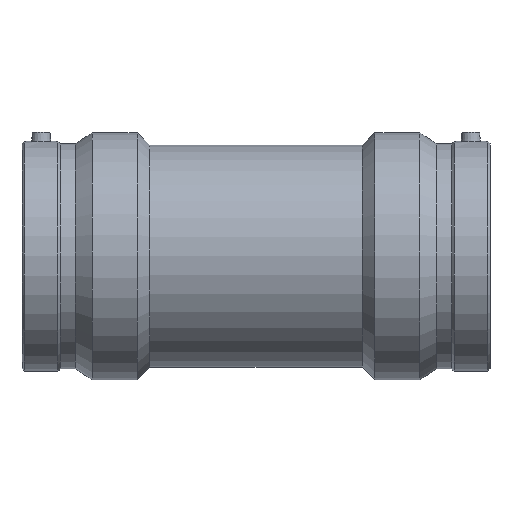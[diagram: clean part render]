
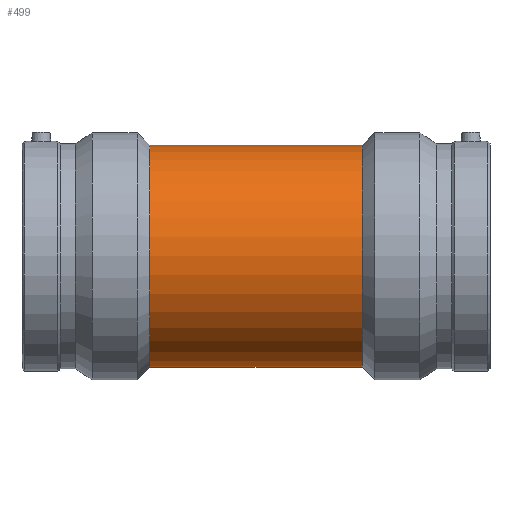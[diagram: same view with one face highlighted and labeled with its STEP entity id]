
A CAD part, top view. The second image highlights one B-rep face of the part: STEP entity #499.
In plain terms, the highlighted cylindrical face has radius 94.05 mm (diameter 188.1 mm), a full revolution.
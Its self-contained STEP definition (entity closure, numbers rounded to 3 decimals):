
#30=B_SPLINE_CURVE_WITH_KNOTS('',3,(#865,#866,#867,#868,#869,#870,#871,
#872,#873,#874,#875,#876,#877,#878,#879,#880,#881,#882,#883,#884,#885,#886,
#887,#888,#889,#890,#891,#892,#893,#894,#895,#896,#897,#898,#899,#900,#901,
#902,#903,#904,#905,#906,#907,#908,#909,#910,#911,#912,#913,#914,#915,#916,
#917,#918,#919,#920,#921,#922,#923,#924,#925,#926,#927,#928,#929,#930),
 .UNSPECIFIED.,.T.,.F.,(4,2,2,2,2,2,2,2,2,2,2,2,2,2,2,2,2,2,2,2,2,2,2,2,
2,2,2,2,2,2,2,2,4),(0.,1.303,2.607,3.91,
5.214,6.499,7.784,9.069,10.354,
11.64,12.925,14.21,15.495,16.799,
18.102,19.406,20.709,22.012,23.316,
24.619,25.923,27.208,28.493,29.778,
31.063,32.349,33.634,34.919,36.204,
37.508,38.811,40.114,41.418),
 .UNSPECIFIED.);
#69=FACE_BOUND('',#187,.T.);
#70=FACE_BOUND('',#188,.T.);
#117=FACE_OUTER_BOUND('',#186,.T.);
#186=EDGE_LOOP('',(#412));
#187=EDGE_LOOP('',(#413));
#188=EDGE_LOOP('',(#414));
#251=CIRCLE('',#568,94.05);
#252=CIRCLE('',#570,94.05);
#276=VERTEX_POINT('',#864);
#297=VERTEX_POINT('',#1058);
#298=VERTEX_POINT('',#1061);
#322=EDGE_CURVE('',#276,#276,#30,.T.);
#343=EDGE_CURVE('',#297,#297,#251,.T.);
#344=EDGE_CURVE('',#298,#298,#252,.T.);
#412=ORIENTED_EDGE('',*,*,#343,.T.);
#413=ORIENTED_EDGE('',*,*,#322,.T.);
#414=ORIENTED_EDGE('',*,*,#344,.F.);
#465=CYLINDRICAL_SURFACE('',#569,94.05);
#499=ADVANCED_FACE('',(#117,#69,#70),#465,.T.);
#568=AXIS2_PLACEMENT_3D('',#1059,#704,#705);
#569=AXIS2_PLACEMENT_3D('',#1060,#706,#707);
#570=AXIS2_PLACEMENT_3D('',#1062,#708,#709);
#704=DIRECTION('center_axis',(1.,0.,0.));
#705=DIRECTION('ref_axis',(0.,0.,-1.));
#706=DIRECTION('center_axis',(1.,0.,0.));
#707=DIRECTION('ref_axis',(0.,1.,0.));
#708=DIRECTION('center_axis',(1.,0.,0.));
#709=DIRECTION('ref_axis',(0.,0.,-1.));
#864=CARTESIAN_POINT('',(0.,-65.625,-67.37));
#865=CARTESIAN_POINT('Ctrl Pts',(0.,-65.625,-67.37));
#866=CARTESIAN_POINT('Ctrl Pts',(4.345,-65.625,-67.37));
#867=CARTESIAN_POINT('Ctrl Pts',(8.742,-65.188,-67.804));
#868=CARTESIAN_POINT('Ctrl Pts',(17.344,-63.444,-69.439));
#869=CARTESIAN_POINT('Ctrl Pts',(21.551,-62.137,-70.635));
#870=CARTESIAN_POINT('Ctrl Pts',(29.543,-58.759,-73.468));
#871=CARTESIAN_POINT('Ctrl Pts',(33.336,-56.686,-75.104));
#872=CARTESIAN_POINT('Ctrl Pts',(40.341,-51.934,-78.465));
#873=CARTESIAN_POINT('Ctrl Pts',(43.552,-49.255,-80.188));
#874=CARTESIAN_POINT('Ctrl Pts',(49.215,-43.592,-83.4));
#875=CARTESIAN_POINT('Ctrl Pts',(51.886,-40.403,-85.015));
#876=CARTESIAN_POINT('Ctrl Pts',(56.65,-33.397,-88.003));
#877=CARTESIAN_POINT('Ctrl Pts',(58.743,-29.579,-89.375));
#878=CARTESIAN_POINT('Ctrl Pts',(62.147,-21.53,-91.648));
#879=CARTESIAN_POINT('Ctrl Pts',(63.459,-17.289,-92.55));
#880=CARTESIAN_POINT('Ctrl Pts',(65.199,-8.666,-93.751));
#881=CARTESIAN_POINT('Ctrl Pts',(65.625,-4.284,-94.05));
#882=CARTESIAN_POINT('Ctrl Pts',(65.625,4.284,-94.05));
#883=CARTESIAN_POINT('Ctrl Pts',(65.199,8.666,-93.751));
#884=CARTESIAN_POINT('Ctrl Pts',(63.459,17.289,-92.55));
#885=CARTESIAN_POINT('Ctrl Pts',(62.147,21.53,-91.648));
#886=CARTESIAN_POINT('Ctrl Pts',(58.743,29.579,-89.375));
#887=CARTESIAN_POINT('Ctrl Pts',(56.65,33.397,-88.003));
#888=CARTESIAN_POINT('Ctrl Pts',(51.886,40.403,-85.015));
#889=CARTESIAN_POINT('Ctrl Pts',(49.215,43.592,-83.4));
#890=CARTESIAN_POINT('Ctrl Pts',(43.552,49.255,-80.188));
#891=CARTESIAN_POINT('Ctrl Pts',(40.341,51.934,-78.465));
#892=CARTESIAN_POINT('Ctrl Pts',(33.336,56.686,-75.104));
#893=CARTESIAN_POINT('Ctrl Pts',(29.543,58.759,-73.468));
#894=CARTESIAN_POINT('Ctrl Pts',(21.551,62.137,-70.635));
#895=CARTESIAN_POINT('Ctrl Pts',(17.344,63.444,-69.439));
#896=CARTESIAN_POINT('Ctrl Pts',(8.742,65.188,-67.804));
#897=CARTESIAN_POINT('Ctrl Pts',(4.345,65.625,-67.37));
#898=CARTESIAN_POINT('Ctrl Pts',(-4.345,65.625,-67.37));
#899=CARTESIAN_POINT('Ctrl Pts',(-8.742,65.188,-67.804));
#900=CARTESIAN_POINT('Ctrl Pts',(-17.344,63.444,-69.439));
#901=CARTESIAN_POINT('Ctrl Pts',(-21.551,62.137,-70.635));
#902=CARTESIAN_POINT('Ctrl Pts',(-29.543,58.759,-73.468));
#903=CARTESIAN_POINT('Ctrl Pts',(-33.336,56.686,-75.104));
#904=CARTESIAN_POINT('Ctrl Pts',(-40.341,51.934,-78.465));
#905=CARTESIAN_POINT('Ctrl Pts',(-43.552,49.255,-80.188));
#906=CARTESIAN_POINT('Ctrl Pts',(-49.215,43.592,-83.4));
#907=CARTESIAN_POINT('Ctrl Pts',(-51.886,40.403,-85.015));
#908=CARTESIAN_POINT('Ctrl Pts',(-56.65,33.397,-88.003));
#909=CARTESIAN_POINT('Ctrl Pts',(-58.743,29.579,-89.375));
#910=CARTESIAN_POINT('Ctrl Pts',(-62.147,21.53,-91.648));
#911=CARTESIAN_POINT('Ctrl Pts',(-63.459,17.289,-92.55));
#912=CARTESIAN_POINT('Ctrl Pts',(-65.199,8.666,-93.751));
#913=CARTESIAN_POINT('Ctrl Pts',(-65.625,4.284,-94.05));
#914=CARTESIAN_POINT('Ctrl Pts',(-65.625,-4.284,-94.05));
#915=CARTESIAN_POINT('Ctrl Pts',(-65.199,-8.666,-93.751));
#916=CARTESIAN_POINT('Ctrl Pts',(-63.459,-17.289,-92.55));
#917=CARTESIAN_POINT('Ctrl Pts',(-62.147,-21.53,-91.648));
#918=CARTESIAN_POINT('Ctrl Pts',(-58.743,-29.579,-89.375));
#919=CARTESIAN_POINT('Ctrl Pts',(-56.65,-33.397,-88.003));
#920=CARTESIAN_POINT('Ctrl Pts',(-51.886,-40.403,-85.015));
#921=CARTESIAN_POINT('Ctrl Pts',(-49.215,-43.592,-83.4));
#922=CARTESIAN_POINT('Ctrl Pts',(-43.552,-49.255,-80.188));
#923=CARTESIAN_POINT('Ctrl Pts',(-40.341,-51.934,-78.465));
#924=CARTESIAN_POINT('Ctrl Pts',(-33.336,-56.686,-75.104));
#925=CARTESIAN_POINT('Ctrl Pts',(-29.543,-58.759,-73.468));
#926=CARTESIAN_POINT('Ctrl Pts',(-21.551,-62.137,-70.635));
#927=CARTESIAN_POINT('Ctrl Pts',(-17.344,-63.444,-69.439));
#928=CARTESIAN_POINT('Ctrl Pts',(-8.742,-65.188,-67.804));
#929=CARTESIAN_POINT('Ctrl Pts',(-4.345,-65.625,-67.37));
#930=CARTESIAN_POINT('Ctrl Pts',(0.,-65.625,-67.37));
#1058=CARTESIAN_POINT('',(-90.09,94.05,0.));
#1059=CARTESIAN_POINT('Origin',(-90.09,0.,0.));
#1060=CARTESIAN_POINT('Origin',(0.,0.,0.));
#1061=CARTESIAN_POINT('',(90.09,94.05,0.));
#1062=CARTESIAN_POINT('Origin',(90.09,0.,0.));
